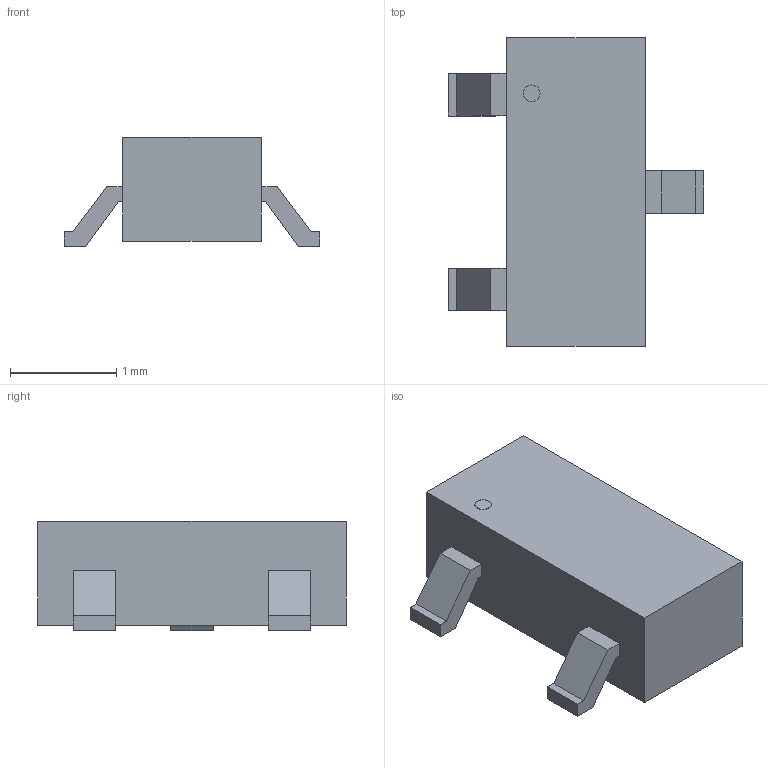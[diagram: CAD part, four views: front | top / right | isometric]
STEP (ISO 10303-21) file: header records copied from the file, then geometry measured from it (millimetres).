
FILE_DESCRIPTION(('Open CASCADE Model'),'2;1');
FILE_NAME('Open CASCADE Shape Model','2026-10-04T11:29:42',('Author'),( 'Open CASCADE'),'Open CASCADE STEP processor 7.9','Open CASCADE 7.9' ,'Unknown');
FILE_SCHEMA(('AUTOMOTIVE_DESIGN { 1 0 10303 214 1 1 1 1 }'));
Length unit declared in the file: millimetre
Products named in the file (4): Diodes_BAT54_SOT23_Nominal; package_body; terminals; illustrative_pin1_index
Assembly tree (3 placements, depth 2):
  Diodes_BAT54_SOT23_Nominal
    package_body
    terminals
    illustrative_pin1_index
Bounding box: 2.4 x 2.9 x 1.02 mm (x, y, z)
Volume: 3.8 mm3; surface area: 18.9 mm2
Topology: 5 solids, 5 shells, 56 faces, 126 edges, 84 vertices
Faces by surface type: plane 54, cylinder 2
Full cylindrical faces by diameter (mm): 0.156 x2
Entity records: 3245 total; most frequent: CARTESIAN_POINT 546, DIRECTION 478, LINE 346, VECTOR 346, ORIENTED_EDGE 252, PCURVE 252, DEFINITIONAL_REPRESENTATION 252, EDGE_CURVE 126
